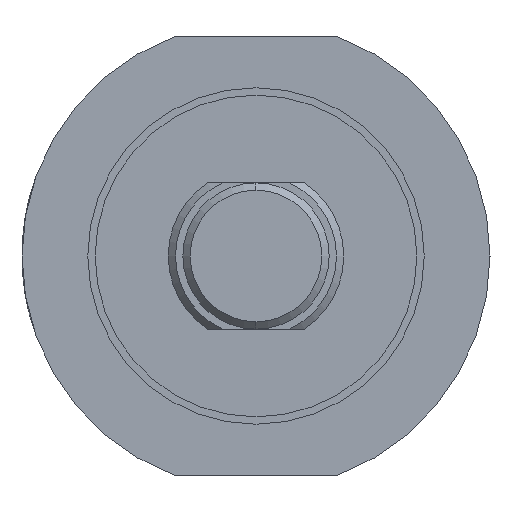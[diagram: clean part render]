
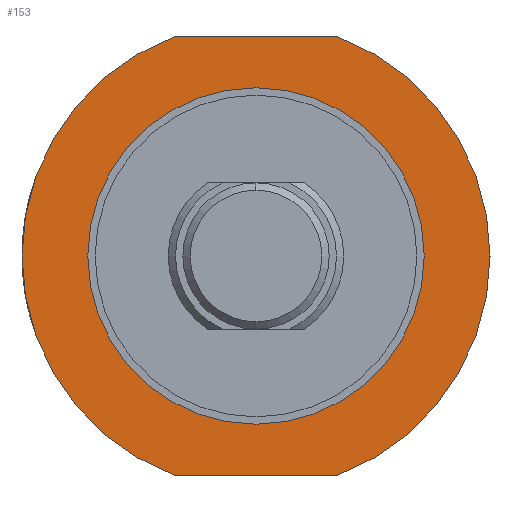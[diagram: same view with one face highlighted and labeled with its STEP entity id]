
A CAD part, left-side view. The second image highlights one B-rep face of the part: STEP entity #153.
In plain terms, the highlighted planar face has unit normal (-1, 0, 0).
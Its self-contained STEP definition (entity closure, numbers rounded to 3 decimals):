
#4 = AXIS2_PLACEMENT_3D ( 'NONE', #1668, #1305, #923 ) ;
#17 = VERTEX_POINT ( 'NONE', #842 ) ;
#90 = EDGE_CURVE ( 'NONE', #1686, #175, #618, .T. ) ;
#129 = ORIENTED_EDGE ( 'NONE', *, *, #771, .F. ) ;
#153 = ADVANCED_FACE ( 'NONE', ( #248, #1182 ), #1458, .F. ) ;
#175 = VERTEX_POINT ( 'NONE', #1520 ) ;
#176 = CARTESIAN_POINT ( 'NONE',  ( 42., 0., 11.5 ) ) ;
#227 = EDGE_CURVE ( 'NONE', #1686, #17, #1465, .T. ) ;
#248 = FACE_BOUND ( 'NONE', #1611, .T. ) ;
#284 = ORIENTED_EDGE ( 'NONE', *, *, #1275, .T. ) ;
#288 = DIRECTION ( 'NONE',  ( 0., -1., 0. ) ) ;
#352 = EDGE_CURVE ( 'NONE', #1468, #175, #1035, .T. ) ;
#360 = VECTOR ( 'NONE', #288, 1000. ) ;
#487 = CIRCLE ( 'NONE', #599, 16. ) ;
#502 = CARTESIAN_POINT ( 'NONE',  ( 42., 11.874, 15. ) ) ;
#555 = DIRECTION ( 'NONE',  ( 0., 0., 1. ) ) ;
#589 = DIRECTION ( 'NONE',  ( 0., 0., -1. ) ) ;
#599 = AXIS2_PLACEMENT_3D ( 'NONE', #660, #954, #926 ) ;
#618 = CIRCLE ( 'NONE', #4, 16. ) ;
#636 = CARTESIAN_POINT ( 'NONE',  ( 42., 0., -11.5 ) ) ;
#647 = CARTESIAN_POINT ( 'NONE',  ( 42., 0., -16. ) ) ;
#660 = CARTESIAN_POINT ( 'NONE',  ( 42., 0., 0. ) ) ;
#664 = CIRCLE ( 'NONE', #1196, 11.5 ) ;
#686 = CIRCLE ( 'NONE', #1197, 11.5 ) ;
#707 = ORIENTED_EDGE ( 'NONE', *, *, #227, .F. ) ;
#751 = DIRECTION ( 'NONE',  ( -1., 0., 0. ) ) ;
#771 = EDGE_CURVE ( 'NONE', #1395, #890, #664, .T. ) ;
#777 = DIRECTION ( 'NONE',  ( 0., 0., 1. ) ) ;
#827 = EDGE_CURVE ( 'NONE', #890, #1395, #686, .T. ) ;
#842 = CARTESIAN_POINT ( 'NONE',  ( 42., 5.568, -15. ) ) ;
#877 = AXIS2_PLACEMENT_3D ( 'NONE', #647, #1125, #589 ) ;
#890 = VERTEX_POINT ( 'NONE', #636 ) ;
#923 = DIRECTION ( 'NONE',  ( 0., 0., 1. ) ) ;
#926 = DIRECTION ( 'NONE',  ( 0., 0., 1. ) ) ;
#954 = DIRECTION ( 'NONE',  ( -1., 0., 0. ) ) ;
#1035 = LINE ( 'NONE', #502, #360 ) ;
#1042 = CARTESIAN_POINT ( 'NONE',  ( 42., 0., 0. ) ) ;
#1123 = CARTESIAN_POINT ( 'NONE',  ( 42., -5.568, -15. ) ) ;
#1125 = DIRECTION ( 'NONE',  ( 1., 0., 0. ) ) ;
#1158 = EDGE_LOOP ( 'NONE', ( #284, #707, #1552, #1489 ) ) ;
#1182 = FACE_OUTER_BOUND ( 'NONE', #1158, .T. ) ;
#1186 = CARTESIAN_POINT ( 'NONE',  ( 42., 5.568, 15. ) ) ;
#1196 = AXIS2_PLACEMENT_3D ( 'NONE', #1042, #751, #555 ) ;
#1197 = AXIS2_PLACEMENT_3D ( 'NONE', #1538, #1680, #777 ) ;
#1275 = EDGE_CURVE ( 'NONE', #1468, #17, #487, .T. ) ;
#1305 = DIRECTION ( 'NONE',  ( -1., 0., 0. ) ) ;
#1390 = DIRECTION ( 'NONE',  ( 0., 1., 0. ) ) ;
#1392 = ORIENTED_EDGE ( 'NONE', *, *, #827, .F. ) ;
#1395 = VERTEX_POINT ( 'NONE', #176 ) ;
#1400 = VECTOR ( 'NONE', #1390, 1000. ) ;
#1458 = PLANE ( 'NONE',  #877 ) ;
#1465 = LINE ( 'NONE', #1691, #1400 ) ;
#1468 = VERTEX_POINT ( 'NONE', #1186 ) ;
#1489 = ORIENTED_EDGE ( 'NONE', *, *, #352, .F. ) ;
#1520 = CARTESIAN_POINT ( 'NONE',  ( 42., -5.568, 15. ) ) ;
#1538 = CARTESIAN_POINT ( 'NONE',  ( 42., 0., 0. ) ) ;
#1552 = ORIENTED_EDGE ( 'NONE', *, *, #90, .T. ) ;
#1611 = EDGE_LOOP ( 'NONE', ( #129, #1392 ) ) ;
#1668 = CARTESIAN_POINT ( 'NONE',  ( 42., 0., 0. ) ) ;
#1680 = DIRECTION ( 'NONE',  ( -1., 0., 0. ) ) ;
#1686 = VERTEX_POINT ( 'NONE', #1123 ) ;
#1691 = CARTESIAN_POINT ( 'NONE',  ( 42., 11.874, -15. ) ) ;
